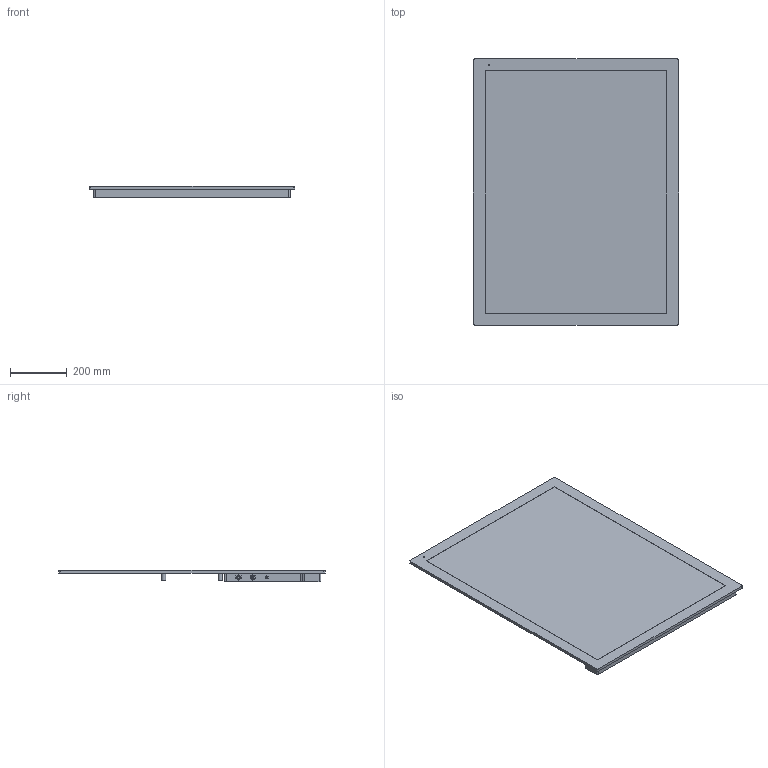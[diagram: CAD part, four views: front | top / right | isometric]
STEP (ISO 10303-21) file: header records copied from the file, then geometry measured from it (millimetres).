
FILE_DESCRIPTION (( 'STEP AP203' ), '1' );
FILE_NAME ('Monitor E-ink 42in Outdoor Master 210315.STEP', '2021-03-15T21:34:59', ( '' ), ( '' ), 'SwSTEP 2.0', 'SolidWorks 2020', '' );
FILE_SCHEMA (( 'CONFIG_CONTROL_DESIGN' ));
Length unit declared in the file: millimetre
Products named in the file (1): Monitor E-ink 42in Outdoor Master 210315
Bounding box: 724.6 x 938.8 x 38.9 mm (x, y, z)
Volume: 11658018.2 mm3; surface area: 1486958 mm2
Topology: 1 solids, 1 shells, 316 faces, 678 edges, 450 vertices
Faces by surface type: cylinder 172, plane 138, torus 4, cone 2
Entity records: 8785 total; most frequent: DIRECTION 1666, CARTESIAN_POINT 1445, ORIENTED_EDGE 1356, EDGE_CURVE 678, AXIS2_PLACEMENT_3D 671, VERTEX_POINT 450, EDGE_LOOP 402, CIRCLE 354
